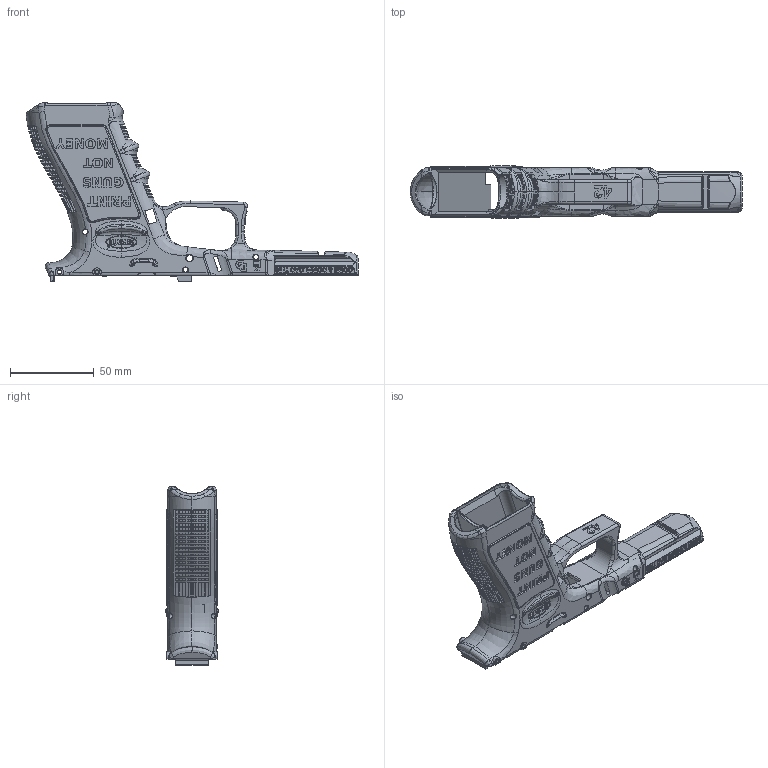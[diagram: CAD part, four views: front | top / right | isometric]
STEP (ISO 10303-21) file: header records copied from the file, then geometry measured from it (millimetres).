
FILE_DESCRIPTION(/* description */ (''),/* implementation_level */ '2;1');
FILE_NAME(/* name */ 'C:/Users/x/sync_windows/full_mod10_mk2_reset_isolated v1.step',/* time_stamp */ '2020-01-05T05:34:24-08:00',/* author */ (''),/* organization */ (''),/* preprocessor_version */ 'ST-DEVELOPER v18',/* originating_system */ 'Autodesk Translation Framework v8.12.0.6',/* authorisation */ '');
FILE_SCHEMA (('AUTOMOTIVE_DESIGN { 1 0 10303 214 3 1 1 }'));
Products named in the file (2): full_mod10_mk2_reset_isolated; Component1
Assembly tree (1 placements, depth 2):
  full_mod10_mk2_reset_isolated
    Component1
Bounding box: 197.79 x 31.4 x 106.5 mm (x, y, z)
Volume: 79664 mm3; surface area: 52794.8 mm2
Topology: 1 solids, 1 shells, 3710 faces, 10616 edges, 6972 vertices
Faces by surface type: bspline 1610, plane 1605, cylinder 419, cone 35, torus 27, sphere 14
Full cylindrical faces by diameter (mm): 2.25 x4, 2.3 x4, 3 x6, 4 x2
Entity records: 232482 total; most frequent: CARTESIAN_POINT 146379, ORIENTED_EDGE 21196, DIRECTION 13654, EDGE_CURVE 10598, VERTEX_POINT 6972, LINE 4970, VECTOR 4970, AXIS2_PLACEMENT_3D 4342
